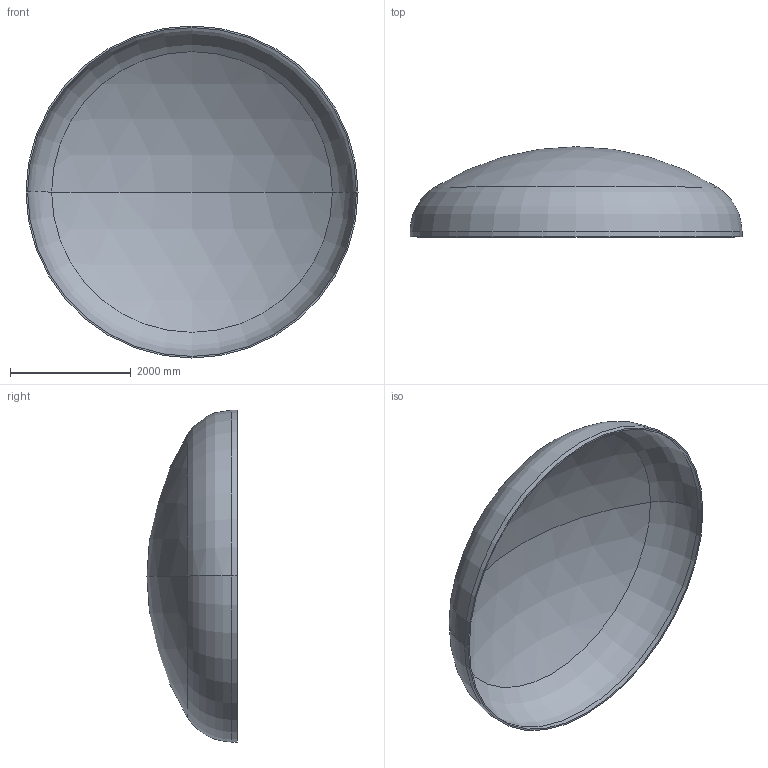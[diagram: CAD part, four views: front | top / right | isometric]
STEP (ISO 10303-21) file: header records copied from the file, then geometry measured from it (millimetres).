
FILE_DESCRIPTION (( 'STEP AP203' ), '1' );
FILE_NAME ('DIN 28013 Korbbogenform_-_Boden DIN 28013 - 5500 x 85 - I - s=26.step', '2016-07-04T10:33:48', ( '' ), ( '' ), 'SwSTEP 2.0', 'SolidWorks 2013', '' );
FILE_SCHEMA (( 'CONFIG_CONTROL_DESIGN' ));
Length unit declared in the file: millimetre
Products named in the file (1): DIN 28013 Korbbogenform_-_Boden DIN 28013 - 5500 x 85 - I - s=26
Bounding box: 5500 x 1493.16 x 5500 mm (x, y, z)
Volume: 887845360.8 mm3; surface area: 68744309.7 mm2
Topology: 1 solids, 1 shells, 13 faces, 24 edges, 14 vertices
Faces by surface type: torus 4, cylinder 4, sphere 4, plane 1
Entity records: 407 total; most frequent: DIRECTION 72, CARTESIAN_POINT 52, ORIENTED_EDGE 48, AXIS2_PLACEMENT_3D 34, EDGE_CURVE 24, CIRCLE 20, VERTEX_POINT 14, EDGE_LOOP 14
